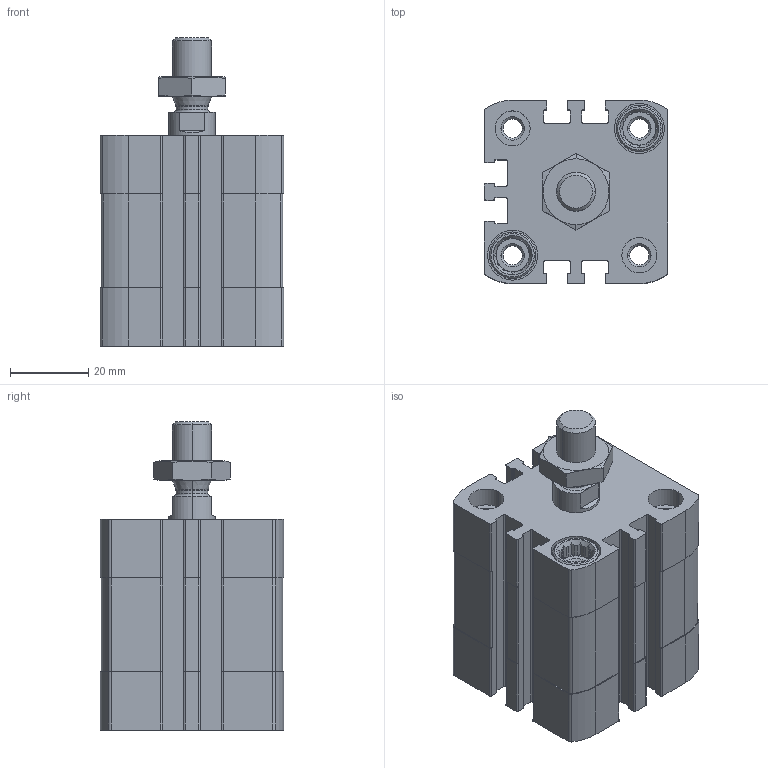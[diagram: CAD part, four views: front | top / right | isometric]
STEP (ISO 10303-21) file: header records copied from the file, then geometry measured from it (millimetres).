
FILE_DESCRIPTION (( 'STEP AP203' ), '1' );
FILE_NAME ('CCN32-10M.STEP', '2017-03-29T13:02:29', ( '' ), ( '' ), 'SwSTEP 2.0', 'SolidWorks 2016', '' );
FILE_SCHEMA (( 'CONFIG_CONTROL_DESIGN' ));
Length unit declared in the file: millimetre
Products named in the file (4): _DIN-439-B - M10x1.25(F); CCN32-10M; CCN-10---(Z); CCN-10_(KS)
Assembly tree (3 placements, depth 2):
  CCN32-10M
    CCN-10---(Z)
    CCN-10_(KS)
    _DIN-439-B - M10x1.25(F)
Bounding box: 47 x 47 x 79 mm (x, y, z)
Volume: 93070.1 mm3; surface area: 33786.9 mm2
Topology: 3 solids, 3 shells, 499 faces, 1334 edges, 872 vertices
Faces by surface type: plane 275, cylinder 172, cone 48, bspline 4
Entity records: 16246 total; most frequent: CARTESIAN_POINT 3119, DIRECTION 2720, ORIENTED_EDGE 2668, EDGE_CURVE 1334, AXIS2_PLACEMENT_3D 997, VERTEX_POINT 872, LINE 726, VECTOR 726
